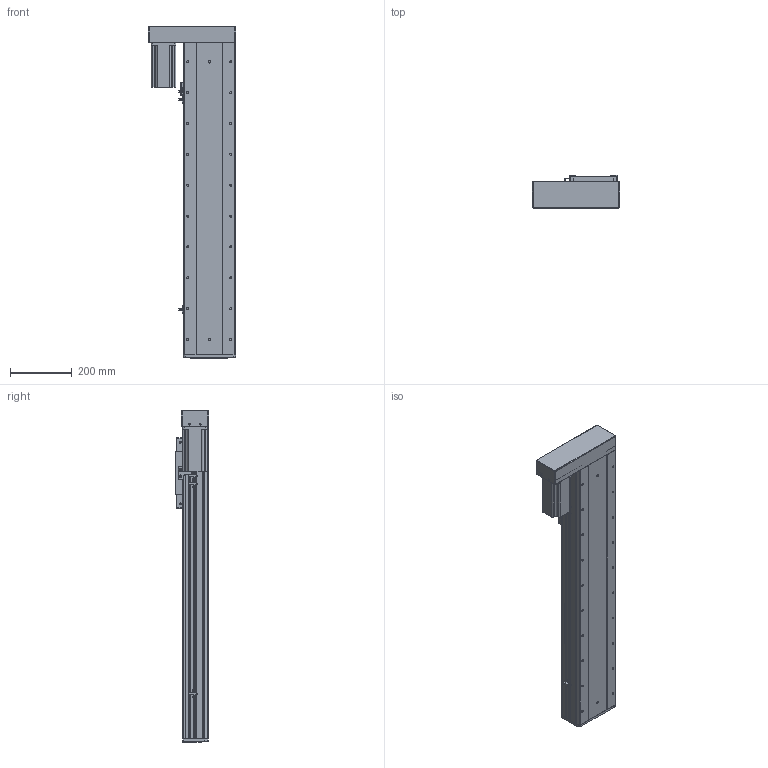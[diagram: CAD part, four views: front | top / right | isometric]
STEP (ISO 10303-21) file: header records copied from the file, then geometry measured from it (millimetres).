
FILE_DESCRIPTION (( 'STEP AP203' ), '1' );
FILE_NAME ('RY170F-L2020-300-LK.SLDASM_700.step', '2021-03-02T09:00:39', ( '盈信电脑' ), ( '东莞市道滘镇水果街19号' ), 'SwSTEP 2.0', 'SolidWorks 2012', '' );
FILE_SCHEMA (( 'CONFIG_CONTROL_DESIGN' ));
Products named in the file (20): RY170F酘衵殏萇儂欶; RY170F-L2020-300-LK.SLDASM_700; RY170F-蛌殏萇儂假蚾啣; RY170F-酘衵殏萇儂釱; 侐源滅袉蝶; 怢湛750W萇儂ㄗ80遺ㄘ; RY170F-揤踡謫假蚾粣; RY170F-詩湍揤踡輸; 滅袉蝶18-24; RY100F-詩湍揤踡謫; RY170F俋离覜茼え; RY170F-綴裔啣; 覜茼ん672; RY170F-300眻蟀倰第奻裔啣-LK_700; RY170F-佪裝臏賑輸20蹟譫; RY170F-丝杆铝滑块连接板; 滅袉蝶18-10; RY170F-300眻蟀祥凄詩湍-LK_700; RY170F-300眻蟀倰第菁釱-LK_700; RY170F-滅鳥奻裔
Assembly tree (24 placements, depth 2):
  RY170F-L2020-300-LK.SLDASM_700
    RY170F-滅鳥奻裔
    RY170F-300眻蟀祥凄詩湍-LK_700
    RY170F-300眻蟀倰第菁釱-LK_700
    RY170F-佪裝臏賑輸20蹟譫
    RY170F-丝杆铝滑块连接板
    RY170F-300眻蟀倰第奻裔啣-LK_700  x2
    滅袉蝶18-10
    RY100F-詩湍揤踡謫
    RY170F-綴裔啣
    覜茼ん672  x3
    RY170F俋离覜茼え
    RY170F-揤踡謫假蚾粣
    RY170F-詩湍揤踡輸  x2
    滅袉蝶18-24
    侐源滅袉蝶  x2
    RY170F-酘衵殏萇儂釱
    RY170F-蛌殏萇儂假蚾啣
    怢湛750W萇儂ㄗ80遺ㄘ
    RY170F酘衵殏萇儂欶
Bounding box: 283 x 107 x 1076 mm (x, y, z)
Volume: 6646466.1 mm3; surface area: 2137079.2 mm2
Topology: 24 solids, 24 shells, 1865 faces, 5166 edges, 3272 vertices
Faces by surface type: cylinder 885, plane 760, cone 212, bspline 8
Entity records: 53463 total; most frequent: CARTESIAN_POINT 10764, DIRECTION 8675, ORIENTED_EDGE 8256, EDGE_CURVE 4128, AXIS2_PLACEMENT_3D 3133, VERTEX_POINT 2692, LINE 2409, VECTOR 2409
